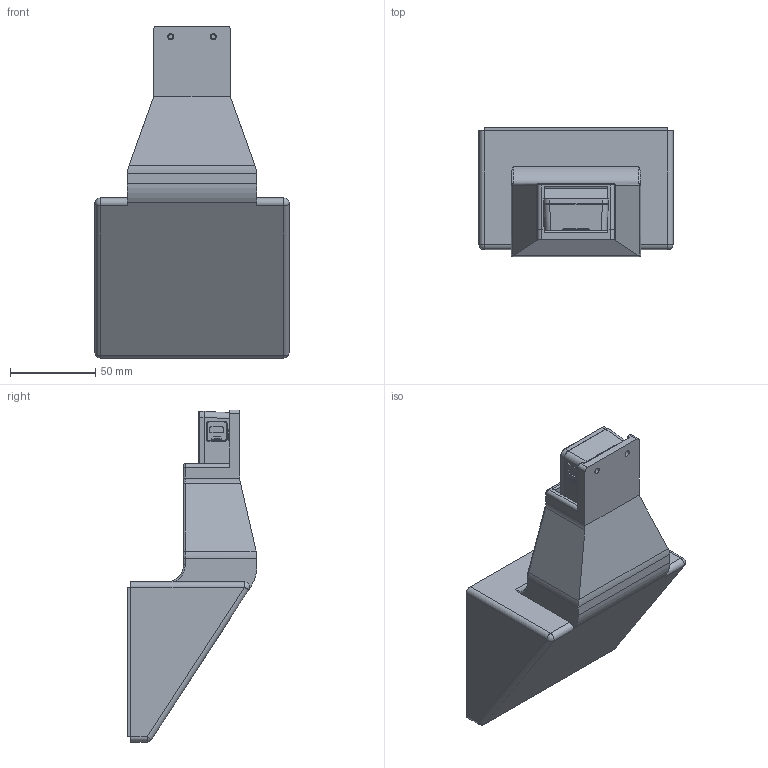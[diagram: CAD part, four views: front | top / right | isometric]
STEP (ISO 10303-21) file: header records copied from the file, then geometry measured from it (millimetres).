
FILE_DESCRIPTION((''),'2;1');
FILE_NAME('Z-5132_REFRACT_MODULE_ASM','2020-08-06T',('milo.hou'),(''),'CREO PARAMETRIC BY PTC INC, 2014500','CREO PARAMETRIC BY PTC INC, 2014500','');
FILE_SCHEMA(('CONFIG_CONTROL_DESIGN'));
Length unit declared in the file: millimetre
Products named in the file (5): Z-5132_REFRACT_TOOLING_33D-14CM; Z-5132_REFRACT_MIRROR_70X100MM; Z-5132_REFRACT_GLASS_108X88X3MM; Z-5132_OUTLINE-20200806; Z-5132_REFRACT_MODULE_ASM
Assembly tree (4 placements, depth 2):
  Z-5132_REFRACT_MODULE_ASM
    Z-5132_REFRACT_TOOLING_33D-14CM
    Z-5132_REFRACT_MIRROR_70X100MM
    Z-5132_REFRACT_GLASS_108X88X3MM
    Z-5132_OUTLINE-20200806
Bounding box: 114 x 76 x 195 mm (x, y, z)
Volume: 263019.4 mm3; surface area: 122017.1 mm2
Topology: 4 solids, 4 shells, 358 faces, 895 edges, 554 vertices
Faces by surface type: plane 147, cylinder 135, bspline 32, torus 26, cone 14, sphere 4
Entity records: 12242 total; most frequent: CARTESIAN_POINT 3745, ORIENTED_EDGE 1778, DIRECTION 1719, EDGE_CURVE 889, AXIS2_PLACEMENT_3D 606, VERTEX_POINT 554, VECTOR 507, LINE 507
